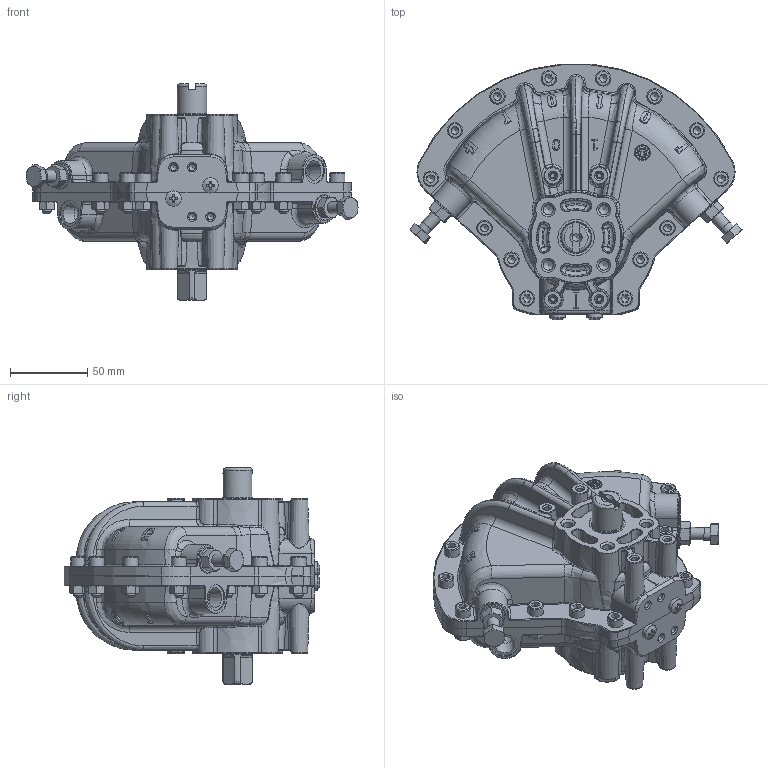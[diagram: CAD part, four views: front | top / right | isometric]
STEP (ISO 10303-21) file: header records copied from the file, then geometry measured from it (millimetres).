
FILE_DESCRIPTION(/* description */ ('Unknown'),/* implementation_level */ '2;1');
FILE_NAME(/* name */ 'D000000202_02032017',/* time_stamp */ '2017-03-02T12:45:54+05:00',/* author */ ('Unknown'),/* organization */ ('Unknown'),/* preprocessor_version */ 'ST-DEVELOPER v16.7',/* originating_system */ 'DEX',/* authorisation */ $);
FILE_SCHEMA (('AUTOMOTIVE_DESIGN {1 0 10303 214 3 1 1}'));
Products named in the file (1): D000000202_02032017
Bounding box: 215.02 x 165.68 x 140.2 mm (x, y, z)
Surface area: 160422.3 mm2 (no closed solid volume)
Topology: 0 solids, 64 shells, 2337 faces, 6045 edges, 3714 vertices
Faces by surface type: bspline 688, plane 621, cone 453, cylinder 285, torus 274, sphere 16
Full cylindrical faces by diameter (mm): 4.134 x12, 4.917 x2, 6 x14, 6.411 x16, 8 x4, 10 x16, 11.63 x2, 11.862 x2, 16 x2, 16.993 x4, 19.18 x2, 19.98 x2, 23.546 x2
Entity records: 118778 total; most frequent: CARTESIAN_POINT 57926, ORIENTED_EDGE 10343, DIRECTION 8418, EDGE_CURVE 5668, AXIS2_PLACEMENT_3D 3668, VERTEX_POINT 3607, FACE_BOUND 2776, EDGE_LOOP 2748
